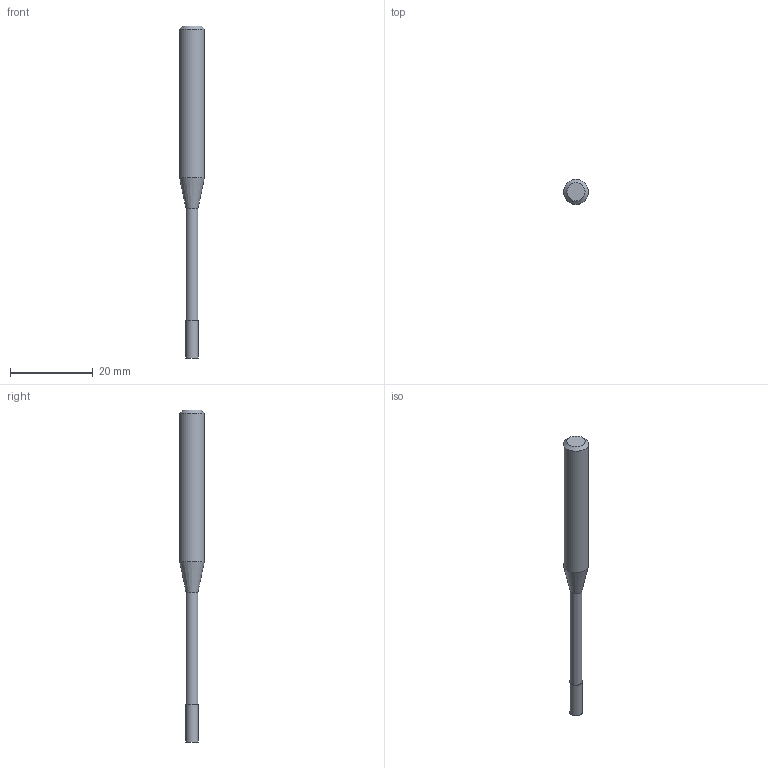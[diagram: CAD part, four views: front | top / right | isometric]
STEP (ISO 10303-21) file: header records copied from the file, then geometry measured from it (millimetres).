
FILE_DESCRIPTION((''),'2;1');
FILE_NAME('C:\Users\nsx150\Desktop\RSE230_20210427\01-00644-03036 RSE230 D3X9X36.step','2021-05-07T14:54:01',(''),(''),'STEP Write','Mastercam 2021 ... CNC Software, Inc.','');
FILE_SCHEMA(('AUTOMOTIVE_DESIGN'));
Length unit declared in the file: millimetre
Products named in the file (1): None
Bounding box: 6 x 6 x 80 mm (x, y, z)
Volume: 1383.7 mm3; surface area: 1160.7 mm2
Topology: 2 solids, 2 shells, 9 faces, 12 edges, 7 vertices
Faces by surface type: plane 4, cylinder 3, cone 2
Full cylindrical faces by diameter (mm): 2.85 x1, 3 x1, 6 x1
Entity records: 211 total; most frequent: DIRECTION 36, CARTESIAN_POINT 25, AXIS2_PLACEMENT_3D 18, ORIENTED_EDGE 14, EDGE_LOOP 14, STYLED_ITEM 12, ADVANCED_FACE 9, FACE_BOUND 8
